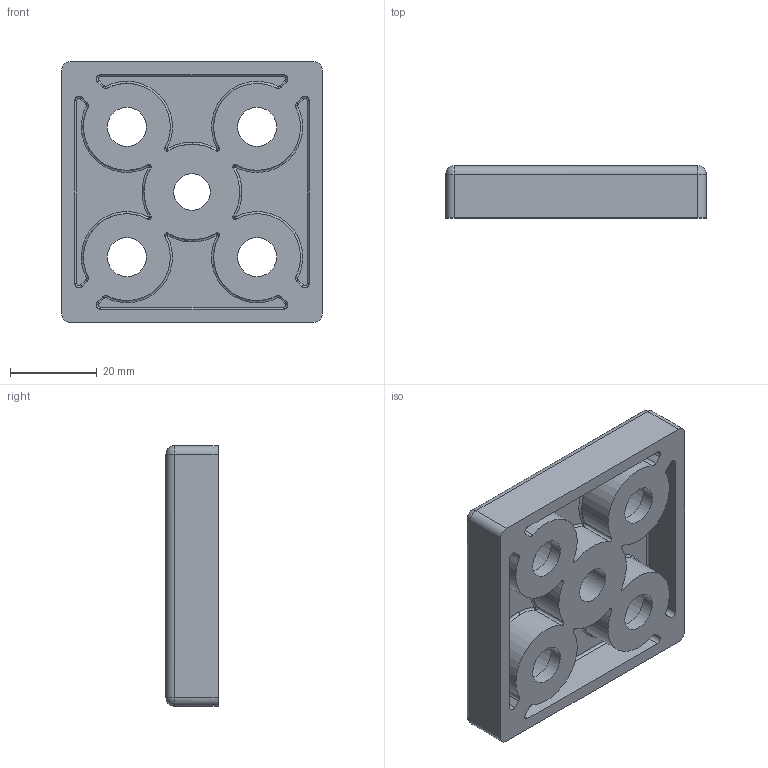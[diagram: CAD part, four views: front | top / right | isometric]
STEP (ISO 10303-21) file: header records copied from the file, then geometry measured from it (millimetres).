
FILE_DESCRIPTION (( 'STEP AP203' ), '1' );
FILE_NAME ('10138_FUS8.6060M10.STEP', '2018-03-15T09:20:22', ( '' ), ( '' ), 'SwSTEP 2.0', 'SolidWorks 2017', '' );
FILE_SCHEMA (( 'CONFIG_CONTROL_DESIGN' ));
Length unit declared in the file: millimetre
Products named in the file (1): 10138_FUS8.6060M10
Bounding box: 60 x 12 x 60 mm (x, y, z)
Volume: 24895.8 mm3; surface area: 15629.3 mm2
Topology: 1 solids, 1 shells, 184 faces, 471 edges, 291 vertices
Faces by surface type: cylinder 87, torus 51, plane 26, sphere 18, cone 2
Entity records: 7008 total; most frequent: CARTESIAN_POINT 2395, DIRECTION 1067, ORIENTED_EDGE 906, AXIS2_PLACEMENT_3D 465, EDGE_CURVE 453, CIRCLE 280, VERTEX_POINT 279, EDGE_LOOP 202
